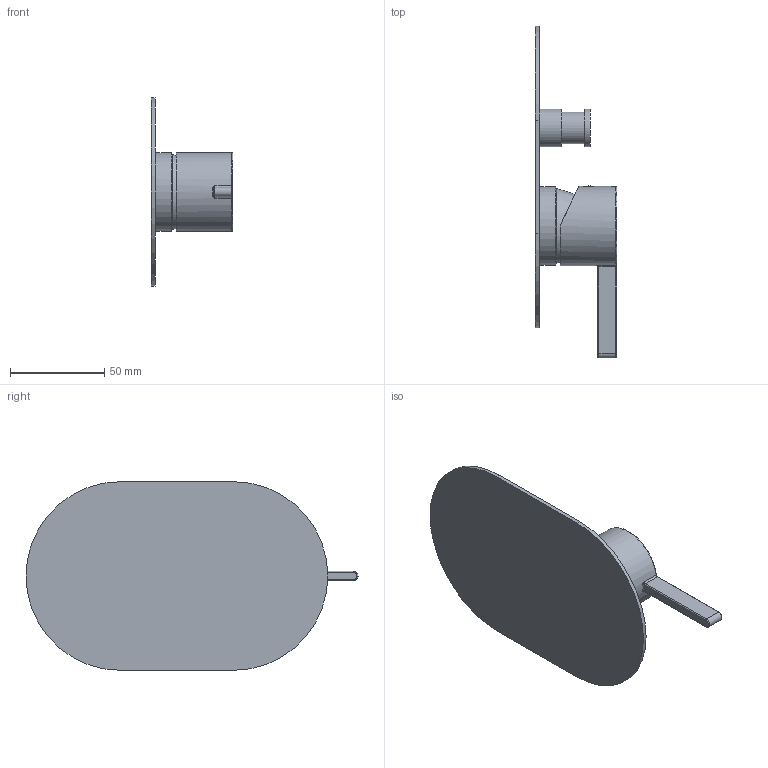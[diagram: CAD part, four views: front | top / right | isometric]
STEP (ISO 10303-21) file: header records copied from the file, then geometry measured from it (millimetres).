
FILE_DESCRIPTION(/* description */ (''),/* implementation_level */ '2;1');
FILE_NAME(/* name */ '3D_TVS106004000_Dawn - UMSTELLER korrigiert.step',/* time_stamp */ '2023-03-27T10:20:48+02:00',/* author */ (''),/* organization */ (''),/* preprocessor_version */ 'ST-DEVELOPER v19.2',/* originating_system */ 'Autodesk Translation Framework v11.17.0.187',/* authorisation */ '');
FILE_SCHEMA (('AUTOMOTIVE_DESIGN { 1 0 10303 214 3 1 1 }'));
Length unit declared in the file: millimetre
Products named in the file (12): (Nicht gespeichert); 300049VEB0_ASM; 10000386; 16002487_ASM; 10000373; 16002399_ASM; 03000256; 05000004; Komponente8; Komponente9; Komponente10; Komponente11
Assembly tree (11 placements, depth 3):
  (Nicht gespeichert)
    300049VEB0_ASM
      10000386
    16002487_ASM
      10000373
    16002399_ASM
      03000256
      05000004
    Komponente8
    Komponente9
    Komponente10
    Komponente11
Bounding box: 43.2 x 176 x 100 mm (x, y, z)
Volume: 64077.1 mm3; surface area: 46818.7 mm2
Topology: 6 solids, 7 shells, 67 faces, 145 edges, 92 vertices
Faces by surface type: plane 29, cylinder 20, torus 11, cone 3, bspline 3, sphere 1
Full cylindrical faces by diameter (mm): 3.9 x1, 16.8 x1, 20 x2, 35 x1, 41.8 x1, 42 x1
Entity records: 2542 total; most frequent: CARTESIAN_POINT 748, DIRECTION 372, ORIENTED_EDGE 287, AXIS2_PLACEMENT_3D 159, EDGE_CURVE 144, VERTEX_POINT 92, CIRCLE 70, EDGE_LOOP 69
